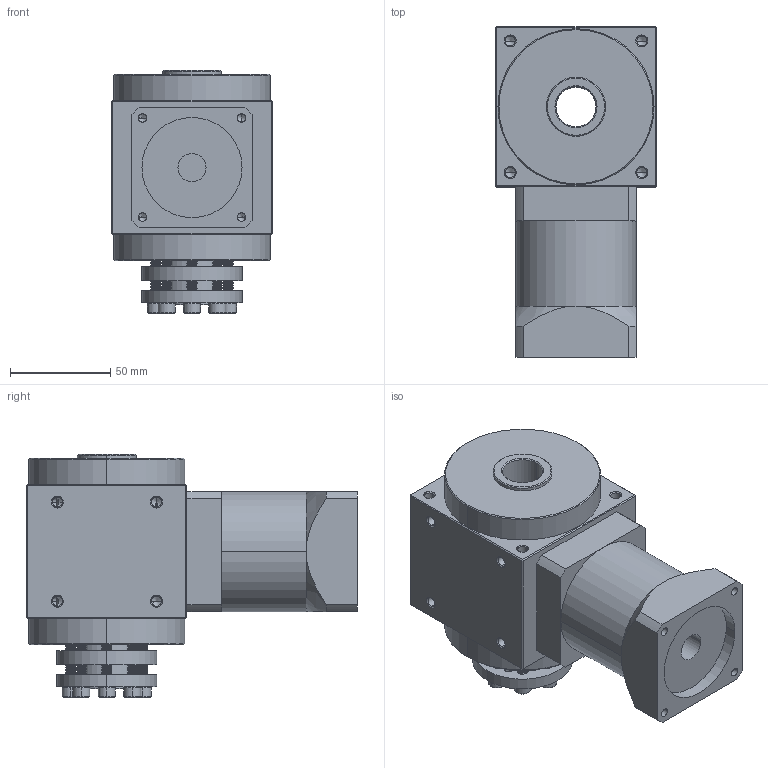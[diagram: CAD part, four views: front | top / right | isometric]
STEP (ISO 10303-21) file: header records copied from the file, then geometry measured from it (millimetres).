
FILE_DESCRIPTION (( 'STEP AP214' ), '1' );
FILE_NAME ('AAW080AS-010-RFHP(3-10) 14-50-70-M5.STEP', '2021-04-23T06:34:44', ( 'Microsoft' ), ( 'Microsoft China' ), 'SwSTEP 2.0', 'SolidWorks 2016', '' );
FILE_SCHEMA (( 'AUTOMOTIVE_DESIGN' ));
Length unit declared in the file: millimetre
Products named in the file (4): 2; AAW080AS-RFHP; M5x25L_1_1_2_1; AAW080AS-010-RFHP(3-10) 14-50-70-M5
Assembly tree (10 placements, depth 2):
  AAW080AS-010-RFHP(3-10) 14-50-70-M5
    M5x25L_1_1_2_1  x8
    AAW080AS-RFHP
    2
Bounding box: 80 x 165 x 121.4 mm (x, y, z)
Volume: 798901.3 mm3; surface area: 89338.7 mm2
Topology: 10 solids, 10 shells, 480 faces, 1139 edges, 698 vertices
Faces by surface type: cone 169, cylinder 156, plane 139, bspline 16
Entity records: 15768 total; most frequent: CARTESIAN_POINT 4871, DIRECTION 1646, ORIENTED_EDGE 1416, EDGE_CURVE 708, AXIS2_PLACEMENT_3D 665, VERTEX_POINT 432, EDGE_LOOP 394, CIRCLE 342
